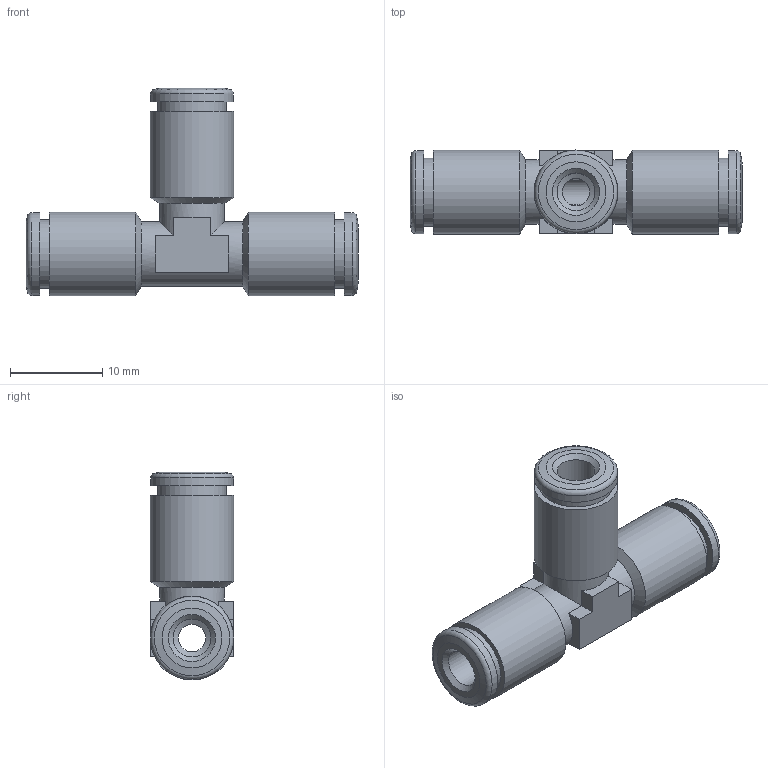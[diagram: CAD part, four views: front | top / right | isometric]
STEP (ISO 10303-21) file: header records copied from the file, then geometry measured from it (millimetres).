
FILE_DESCRIPTION(/* description */ (''),/* implementation_level */ '2;1');
FILE_NAME(/* name */ '200501-ES_STX05_4_20.06.16',/* time_stamp */ '2016-06-20T10:57:12+02:00',/* author */ (''),/* organization */ (''),/* preprocessor_version */ 'ST-DEVELOPER v16.5',/* originating_system */ 'HiCAD 2016 2101.0 Build 254',/* authorisation */ '');
FILE_SCHEMA (('AUTOMOTIVE_DESIGN { 1 0 10303 214 1 1 1 1 }'));
Length unit declared in the file: millimetre
Products named in the file (5): Root; R200501-ES-N; DR4-1_NEU
Assembly tree (4 placements, depth 2):
  Root
    R200501-ES-N
    DR4-1_NEU
    DR4-1_NEU
    DR4-1_NEU
Bounding box: 36 x 9.1 x 22.55 mm (x, y, z)
Volume: 1840.1 mm3; surface area: 3342 mm2
Topology: 4 solids, 4 shells, 95 faces, 203 edges, 121 vertices
Faces by surface type: plane 33, cylinder 30, cone 29, torus 3
Full cylindrical faces by diameter (mm): 3 x2, 4.1 x6, 6.4 x3, 7 x2, 7.3 x3, 7.4 x3, 7.6 x3, 9 x3, 9.1 x3
Entity records: 3663 total; most frequent: DIRECTION 424, CARTESIAN_POINT 395, PRESENTATION_STYLE_ASSIGNMENT 272, COLOUR_RGB 269, DRAUGHTING_PRE_DEFINED_CURVE_FONT 268, CURVE_STYLE 268, OVER_RIDING_STYLED_ITEM 268, ORIENTED_EDGE 268
